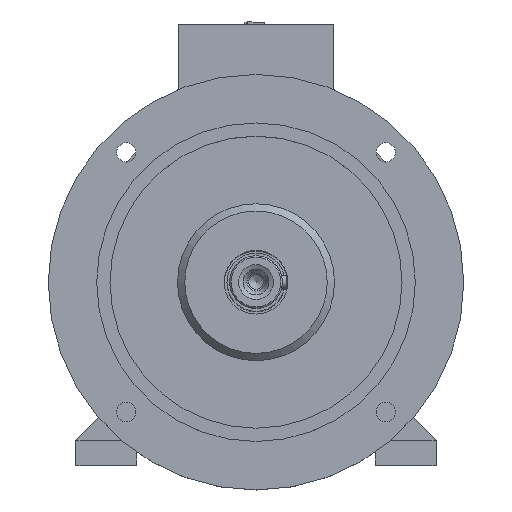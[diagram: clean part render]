
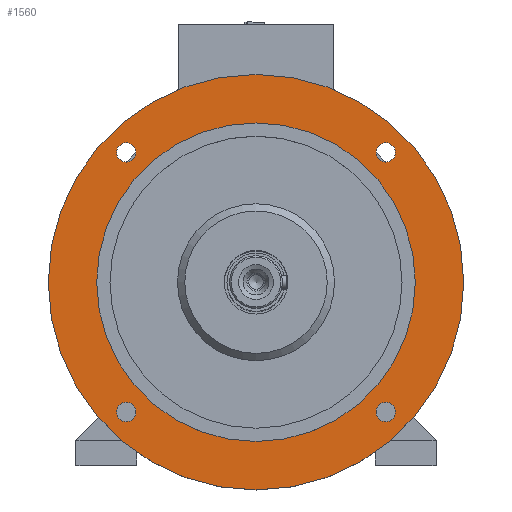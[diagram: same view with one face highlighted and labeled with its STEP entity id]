
A CAD part, top view. The second image highlights one B-rep face of the part: STEP entity #1560.
In plain terms, the highlighted planar face has unit normal (0, 0, 1).
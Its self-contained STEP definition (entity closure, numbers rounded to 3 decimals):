
#551 = ORIENTED_EDGE ( 'NONE', *, *, #12009, .F. ) ;
#666 = FACE_BOUND ( 'NONE', #10261, .T. ) ;
#941 = CARTESIAN_POINT ( 'NONE',  ( 100.692, -93.692, 178. ) ) ;
#1560 = ADVANCED_FACE ( 'NONE', ( #2634, #8261, #666, #6928, #13318, #9181 ), #3763, .T. ) ;
#1663 = DIRECTION ( 'NONE',  ( 0., 0., -1. ) ) ;
#1746 = DIRECTION ( 'NONE',  ( 0., 0., -1. ) ) ;
#2044 = EDGE_LOOP ( 'NONE', ( #9407 ) ) ;
#2187 = CIRCLE ( 'NONE', #10054, 7. ) ;
#2294 = CIRCLE ( 'NONE', #11950, 7. ) ;
#2570 = CARTESIAN_POINT ( 'NONE',  ( -93.692, -100.692, 178. ) ) ;
#2634 = FACE_BOUND ( 'NONE', #10420, .T. ) ;
#2863 = CARTESIAN_POINT ( 'NONE',  ( -93.692, -93.692, 178. ) ) ;
#3182 = EDGE_CURVE ( 'NONE', #9322, #9322, #12926, .T. ) ;
#3625 = CARTESIAN_POINT ( 'NONE',  ( 0., 0., 178. ) ) ;
#3763 = PLANE ( 'NONE',  #5057 ) ;
#3927 = CARTESIAN_POINT ( 'NONE',  ( 0., 0., 178. ) ) ;
#3969 = DIRECTION ( 'NONE',  ( 0., 0., 1. ) ) ;
#4435 = AXIS2_PLACEMENT_3D ( 'NONE', #3927, #1746, #13410 ) ;
#4542 = AXIS2_PLACEMENT_3D ( 'NONE', #11347, #5728, #12261 ) ;
#4982 = AXIS2_PLACEMENT_3D ( 'NONE', #3625, #1663, #8131 ) ;
#5057 = AXIS2_PLACEMENT_3D ( 'NONE', #10234, #3969, #11352 ) ;
#5169 = VERTEX_POINT ( 'NONE', #7357 ) ;
#5245 = CARTESIAN_POINT ( 'NONE',  ( -150., 0., 178. ) ) ;
#5728 = DIRECTION ( 'NONE',  ( 0., 0., 1. ) ) ;
#6088 = CARTESIAN_POINT ( 'NONE',  ( -100.692, 93.692, 178. ) ) ;
#6557 = CIRCLE ( 'NONE', #4542, 7. ) ;
#6866 = VERTEX_POINT ( 'NONE', #2570 ) ;
#6877 = DIRECTION ( 'NONE',  ( 0., -1., 0. ) ) ;
#6928 = FACE_BOUND ( 'NONE', #12706, .T. ) ;
#6940 = VERTEX_POINT ( 'NONE', #5245 ) ;
#7194 = CARTESIAN_POINT ( 'NONE',  ( -93.692, 93.692, 178. ) ) ;
#7286 = CARTESIAN_POINT ( 'NONE',  ( -115., 0., 178. ) ) ;
#7357 = CARTESIAN_POINT ( 'NONE',  ( 93.692, 100.692, 178. ) ) ;
#7694 = EDGE_LOOP ( 'NONE', ( #10113 ) ) ;
#8100 = CARTESIAN_POINT ( 'NONE',  ( 93.692, -93.692, 178. ) ) ;
#8131 = DIRECTION ( 'NONE',  ( -1., 0., 0. ) ) ;
#8261 = FACE_BOUND ( 'NONE', #2044, .T. ) ;
#8313 = EDGE_CURVE ( 'NONE', #6866, #6866, #2187, .T. ) ;
#8352 = EDGE_CURVE ( 'NONE', #6940, #6940, #13419, .T. ) ;
#8357 = CIRCLE ( 'NONE', #4982, 115. ) ;
#9061 = DIRECTION ( 'NONE',  ( 0., 0., 1. ) ) ;
#9166 = DIRECTION ( 'NONE',  ( 0., 0., 1. ) ) ;
#9181 = FACE_OUTER_BOUND ( 'NONE', #7694, .T. ) ;
#9322 = VERTEX_POINT ( 'NONE', #6088 ) ;
#9372 = ORIENTED_EDGE ( 'NONE', *, *, #8313, .F. ) ;
#9407 = ORIENTED_EDGE ( 'NONE', *, *, #3182, .F. ) ;
#9704 = ORIENTED_EDGE ( 'NONE', *, *, #12921, .T. ) ;
#10054 = AXIS2_PLACEMENT_3D ( 'NONE', #2863, #9061, #6877 ) ;
#10113 = ORIENTED_EDGE ( 'NONE', *, *, #8352, .F. ) ;
#10234 = CARTESIAN_POINT ( 'NONE',  ( 0., 150., 178. ) ) ;
#10261 = EDGE_LOOP ( 'NONE', ( #11091 ) ) ;
#10420 = EDGE_LOOP ( 'NONE', ( #9372 ) ) ;
#11091 = ORIENTED_EDGE ( 'NONE', *, *, #13158, .F. ) ;
#11117 = DIRECTION ( 'NONE',  ( 0., 0., 1. ) ) ;
#11197 = DIRECTION ( 'NONE',  ( -1., 0., 0. ) ) ;
#11347 = CARTESIAN_POINT ( 'NONE',  ( 93.692, 93.692, 178. ) ) ;
#11352 = DIRECTION ( 'NONE',  ( 1., 0., 0. ) ) ;
#11495 = VERTEX_POINT ( 'NONE', #941 ) ;
#11800 = EDGE_LOOP ( 'NONE', ( #9704 ) ) ;
#11950 = AXIS2_PLACEMENT_3D ( 'NONE', #8100, #11117, #12380 ) ;
#12009 = EDGE_CURVE ( 'NONE', #11495, #11495, #2294, .T. ) ;
#12261 = DIRECTION ( 'NONE',  ( 0., 1., 0. ) ) ;
#12264 = AXIS2_PLACEMENT_3D ( 'NONE', #7194, #9166, #11197 ) ;
#12380 = DIRECTION ( 'NONE',  ( 1., 0., 0. ) ) ;
#12706 = EDGE_LOOP ( 'NONE', ( #551 ) ) ;
#12921 = EDGE_CURVE ( 'NONE', #13733, #13733, #8357, .T. ) ;
#12926 = CIRCLE ( 'NONE', #12264, 7. ) ;
#13158 = EDGE_CURVE ( 'NONE', #5169, #5169, #6557, .T. ) ;
#13318 = FACE_BOUND ( 'NONE', #11800, .T. ) ;
#13410 = DIRECTION ( 'NONE',  ( -1., 0., 0. ) ) ;
#13419 = CIRCLE ( 'NONE', #4435, 150. ) ;
#13733 = VERTEX_POINT ( 'NONE', #7286 ) ;
